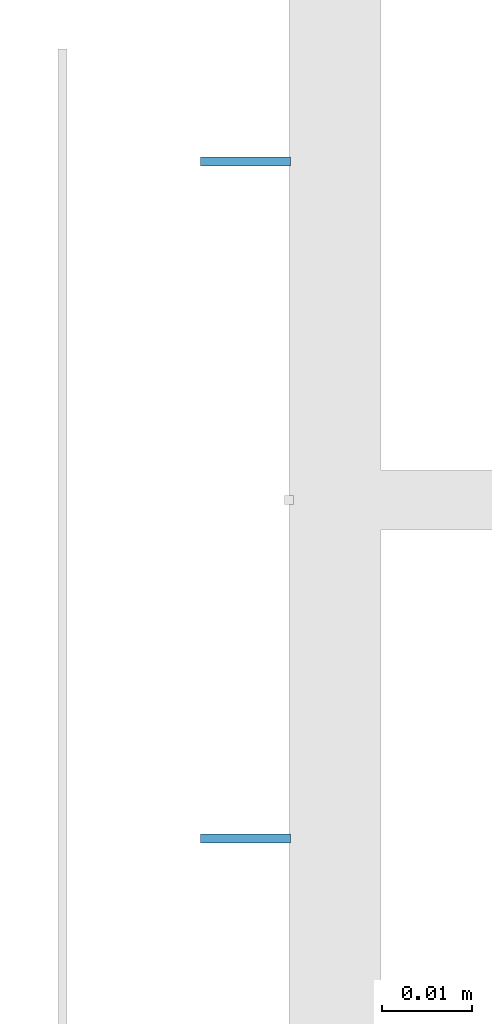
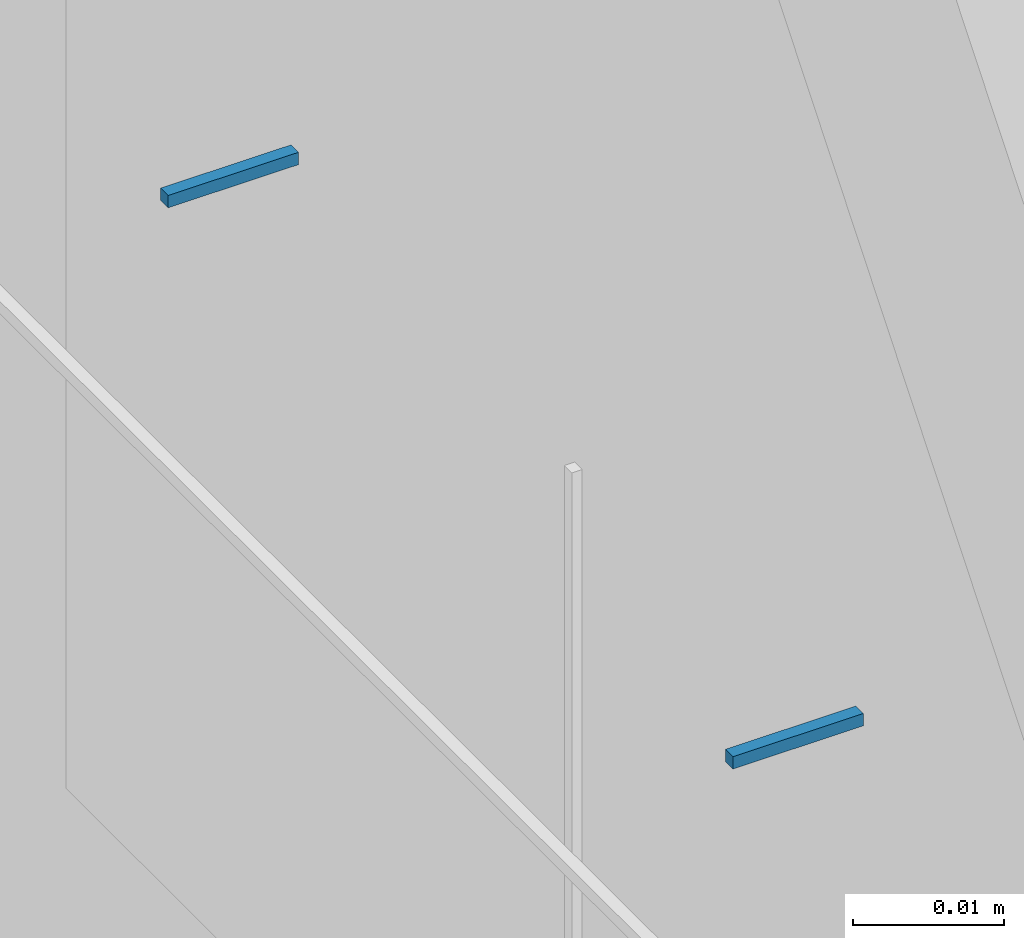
# One storey, part 91 of 186: 2 beams.
"""IFC4X3_ADD2 building model written with IfcOpenShell, lengths in millimetres."""

from ifc_helpers import new_model, si_unit, direction, frame, frame_2d, origin_with_axes, place, context, subcontext, project, spatial, rectangle, extrude, material, element, save


model = new_model("IFC4X3_ADD2")

# Units and contexts
model_context = context("Model", 3, precision=1e-05, world=origin_with_axes(), true_north=direction((0.0, 1.0)))
body_context = subcontext(model_context, "Body", "Model", "MODEL_VIEW")
ifc_project = project(units=[si_unit("LENGTHUNIT", "METRE", prefix="MILLI"), si_unit("AREAUNIT", "SQUARE_METRE"), si_unit("VOLUMEUNIT", "CUBIC_METRE"), si_unit("PLANEANGLEUNIT", "RADIAN"), si_unit("TIMEUNIT", "SECOND"), si_unit("MASSUNIT", "GRAM")], contexts=[model_context])

# Site, building, storey
site_placement = place(None, origin_with_axes())
site = spatial("IfcSite", under=ifc_project, at=site_placement, Name="Site", CompositionType="ELEMENT")
building_placement = place(site_placement, origin_with_axes())
building = spatial("IfcBuilding", under=site, at=building_placement, Name="IFC Building Story")
storey_placement = place(building_placement, frame((0.0, 0.0, 4370.0), z_axis=(0.0, 0.0, 1.0), x_axis=(1.0, 0.0, 0.0)))
storey = spatial("IfcBuildingStorey", under=building, at=storey_placement, Name="ETAGE 10 (1)", Elevation=4370.0)

# Beams
ifc_material = material(Name="STEEL/Accessory_invisible")
for number, where, z_axis, x_axis, name in (
    (1, (48494.4886362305, 8672.5006109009, 3859.5), (-1.0, 0.0, 0.0), (0.0, -1.0, 0.0), "MP21"),
    (2, (48494.4886362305, 8747.5006109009, 3859.5), (-1.0, 0.0, 0.0), (0.0, -1.0, 0.0), "MP21"),
):
    element("IfcBeam", number, at=place(storey_placement, frame(where, z_axis=z_axis, x_axis=x_axis)), inside=storey, material=ifc_material, Name=name, ObjectType="1*1 3", context=body_context, shape_type="SweptSolid", body=[
        extrude(rectangle(XDim=0.9999999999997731, YDim=0.9999999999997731, at=frame_2d((0.0, 5.95523630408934e-12), x_axis=(1.0, 0.0))), origin_with_axes(), (0.0, 0.0, 1.0), 10.0),
    ])

save(model, "model.ifc")
